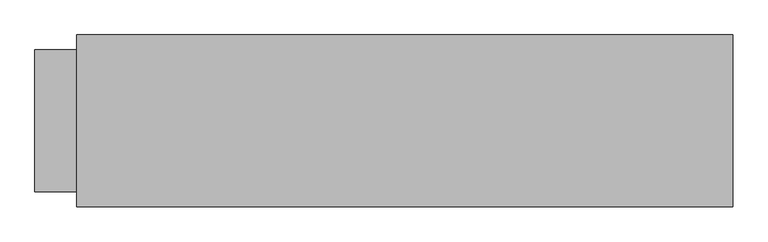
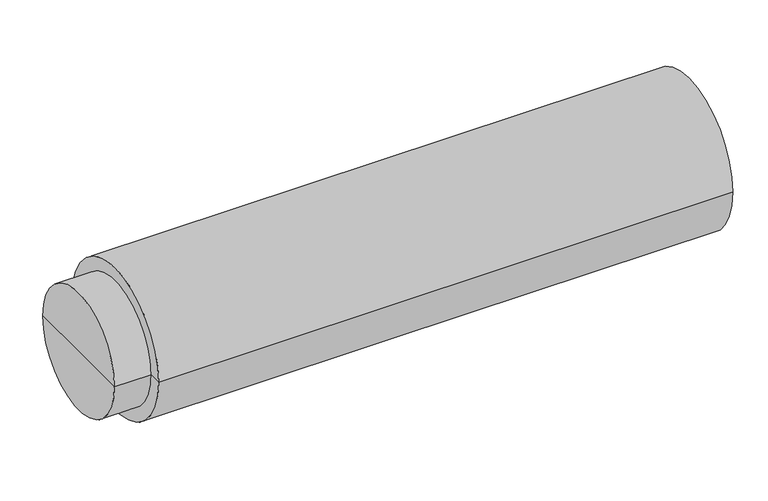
"""IFC4 building model written with IfcOpenShell, lengths in millimetres: duct segment geometry, NLRS_57_DUF_UN_duct EPP+_M&G : ø160 - ø200."""

from ifc_helpers import new_model, si_unit, frame, origin, place, context, project, spatial, polyline, circle_curve, source, transform, mapped, element, save
from ifc_brep_helpers import plane_surface, cylinder_surface, revolved_surface, advanced_brep


def duct_segment_f24fd0ad(model_context):
    return source(origin(), model_context, "Body", "AdvancedBrep", [
        advanced_brep(
        [(0.0, 0.0, 0.0), (0.0, 101.5, 0.0), (0.0, -101.5, 0.0), (940.0, -101.5, 0.0), (940.0, 101.5, 0.0), (940.0, 0.0, 0.0), (1000.0, -101.5, 0.0), (1000.0, 101.5, 0.0), (1000.0, -123.0, 0.0), (1000.0, 123.0, 0.0), (60.0, -123.0, 0.0), (60.0, 123.0, 0.0), (60.0, -101.5, 0.0), (60.0, 101.5, 0.0)],
        [
            (0, 1),
            (1, 2, circle_curve(frame((0.0, 0.0, 0.0), z_axis=(-1.0, 0.0, 0.0), x_axis=(0.0, 1.0, 0.0)), 101.5)),
            (2, 0),
            (2, 1, circle_curve(frame((0.0, 0.0, 0.0), z_axis=(-1.0, 0.0, 0.0), x_axis=(0.0, 1.0, 0.0)), 101.5)),
            (3, 4, circle_curve(frame((940.0, 0.0, 0.0), z_axis=(1.0, 0.0, 0.0), x_axis=(0.0, 1.0, 0.0)), 101.5)),
            (4, 5),
            (5, 3),
            (4, 3, circle_curve(frame((940.0, 0.0, 0.0), z_axis=(1.0, 0.0, 0.0), x_axis=(0.0, 1.0, 0.0)), 101.5)),
            (6, 7, circle_curve(frame((1000.0, 0.0, 0.0), z_axis=(1.0, 0.0, 0.0), x_axis=(0.0, 1.0, 0.0)), 101.5)),
            (7, 4),
            (3, 6),
            (7, 6, circle_curve(frame((1000.0, 0.0, 0.0), z_axis=(1.0, 0.0, 0.0), x_axis=(0.0, 1.0, 0.0)), 101.5)),
            (8, 9, circle_curve(frame((1000.0, 0.0, 0.0), z_axis=(1.0, 0.0, 0.0), x_axis=(0.0, 1.0, 0.0)), 123.0)),
            (9, 7),
            (6, 8),
            (9, 8, circle_curve(frame((1000.0, 0.0, 0.0), z_axis=(1.0, 0.0, 0.0), x_axis=(0.0, 1.0, 0.0)), 123.0)),
            (10, 11, circle_curve(frame((60.0, 0.0, 0.0), z_axis=(1.0, 0.0, 0.0), x_axis=(0.0, 1.0, 0.0)), 123.0)),
            (11, 9),
            (8, 10),
            (11, 10, circle_curve(frame((60.0, 0.0, 0.0), z_axis=(1.0, 0.0, 0.0), x_axis=(0.0, 1.0, 0.0)), 123.0)),
            (12, 13, circle_curve(frame((60.0, 0.0, 0.0), z_axis=(1.0, 0.0, 0.0), x_axis=(0.0, 1.0, 0.0)), 101.5)),
            (13, 11),
            (10, 12),
            (13, 12, circle_curve(frame((60.0, 0.0, 0.0), z_axis=(1.0, 0.0, 0.0), x_axis=(0.0, 1.0, 0.0)), 101.5)),
            (1, 13),
            (12, 2),
        ],
        [
            plane_surface(frame((0.0, 0.0, 0.0), z_axis=(-1.0, 0.0, 0.0), x_axis=(0.0, 1.0, 0.0))),
            plane_surface(frame((940.0, 0.0, 0.0), z_axis=(1.0, 0.0, 0.0), x_axis=(0.0, 1.0, 0.0))),
            revolved_surface(polyline([(940.0, 101.5, 0.0), (1000.0, 101.5, 0.0)]), (2000.0, 0.0, 0.0), (-1.0, 0.0, 0.0)),
            plane_surface(frame((1000.0, 0.0, 0.0), z_axis=(1.0, 0.0, 0.0), x_axis=(0.0, 1.0, 0.0))),
            cylinder_surface(frame((2000.0, 0.0, 0.0), z_axis=(-1.0, 0.0, 0.0), x_axis=(0.0, 1.0, 0.0)), 123.0),
            plane_surface(frame((60.0, 0.0, 0.0), z_axis=(-1.0, 0.0, 0.0), x_axis=(0.0, 1.0, 0.0))),
            cylinder_surface(frame((2000.0, 0.0, 0.0), z_axis=(-1.0, 0.0, 0.0), x_axis=(0.0, 1.0, 0.0)), 101.5),
        ],
        [
            (0, [[1, 2, 3]]),
            (0, [[-3, 4, -1]]),
            (1, [[5, 6, 7]]),
            (1, [[8, -7, -6]]),
            (2, [[9, 10, -5, 11]]),
            (2, [[12, -11, -8, -10]]),
            (3, [[13, 14, -9, 15]]),
            (3, [[16, -15, -12, -14]]),
            (4, [[17, 18, -13, 19]]),
            (4, [[20, -19, -16, -18]]),
            (5, [[21, 22, -17, 23]]),
            (5, [[24, -23, -20, -22]]),
            (6, [[-2, 25, -21, 26]]),
            (6, [[-4, -26, -24, -25]]),
        ],
    ),
    ])


if __name__ == "__main__":
    model = new_model("IFC4")
    model_context = context("Model", 3, world=origin())
    ifc_project = project(units=[si_unit("LENGTHUNIT", "METRE", prefix="MILLI")], contexts=[model_context])
    site = spatial("IfcSite", under=ifc_project)
    building = spatial("IfcBuilding", under=site)
    placement = place(None, origin())
    duct_segment_shape = duct_segment_f24fd0ad(model_context)
    element("IfcDuctSegment", 1, ObjectType="NLRS_57_DUF_UN_duct EPP+_M&G : ø160 - ø200", at=placement, inside=building, context=model_context, shape_type="MappedRepresentation", body=[
        mapped(duct_segment_shape, transform((0.0, 0.0, 0.0), x_axis=(1.0, 0.0, 0.0), y_axis=(0.0, 1.0, 0.0), z_axis=(0.0, 0.0, 1.0))),
    ])
    save(model, "model.ifc")
